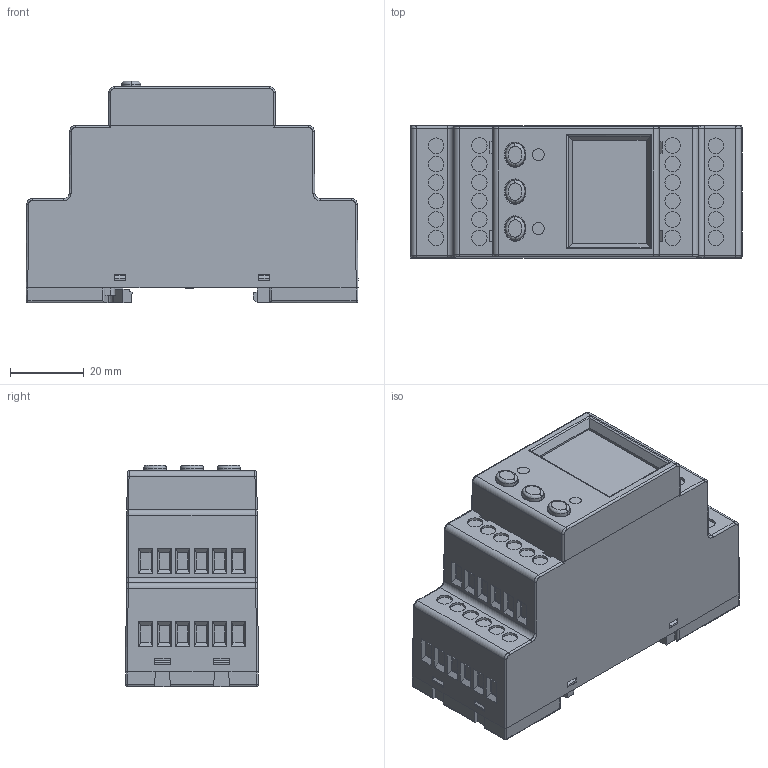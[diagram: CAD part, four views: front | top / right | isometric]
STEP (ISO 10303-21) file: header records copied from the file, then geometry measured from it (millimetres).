
FILE_DESCRIPTION (( 'STEP AP214' ), '1' );
FILE_NAME ('MRx.STEP', '2013-07-12T14:15:34', ( '' ), ( '' ), 'SwSTEP 2.0', 'SolidWorks 2013', '' );
FILE_SCHEMA (( 'AUTOMOTIVE_DESIGN' ));
Length unit declared in the file: millimetre
Products named in the file (1): MRx
Bounding box: 90 x 36 x 60 mm (x, y, z)
Volume: 141781.9 mm3; surface area: 26206 mm2
Topology: 1 solids, 1 shells, 939 faces, 2435 edges, 1554 vertices
Faces by surface type: plane 674, bspline 130, cylinder 113, cone 15, sphere 4, torus 3
Entity records: 46558 total; most frequent: CARTESIAN_POINT 14212, ORIENTED_EDGE 4870, DIRECTION 3922, EDGE_CURVE 2435, LINE 1900, VECTOR 1900, VERTEX_POINT 1554, EDGE_LOOP 1041
